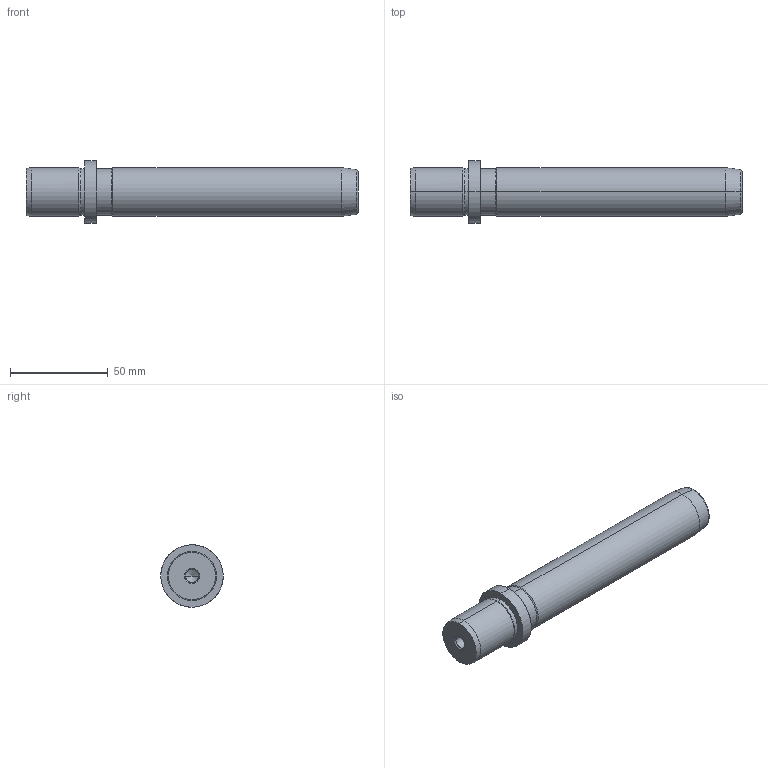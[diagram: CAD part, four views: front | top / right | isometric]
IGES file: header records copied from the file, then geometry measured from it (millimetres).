
Start section: START RECORD GO HERE.
Global section: file name: 718-25x140.igs; native system: DASSAULT SYSTEMES CATIA V5 R20 - www.3ds.com; preprocessor: CATIA Version 5 Release 20 ; author: Utente; organization: NB04-ASUS; date: 20210102.160858; units: millimetre
Bounding box: 170 x 32 x 32 mm (x, y, z)
Surface area: 15988.1 mm2 (no closed solid volume)
Topology: 0 solids, 0 shells, 36 faces, 196 edges, 192 vertices
Faces by surface type: revolution 32, plane 4
